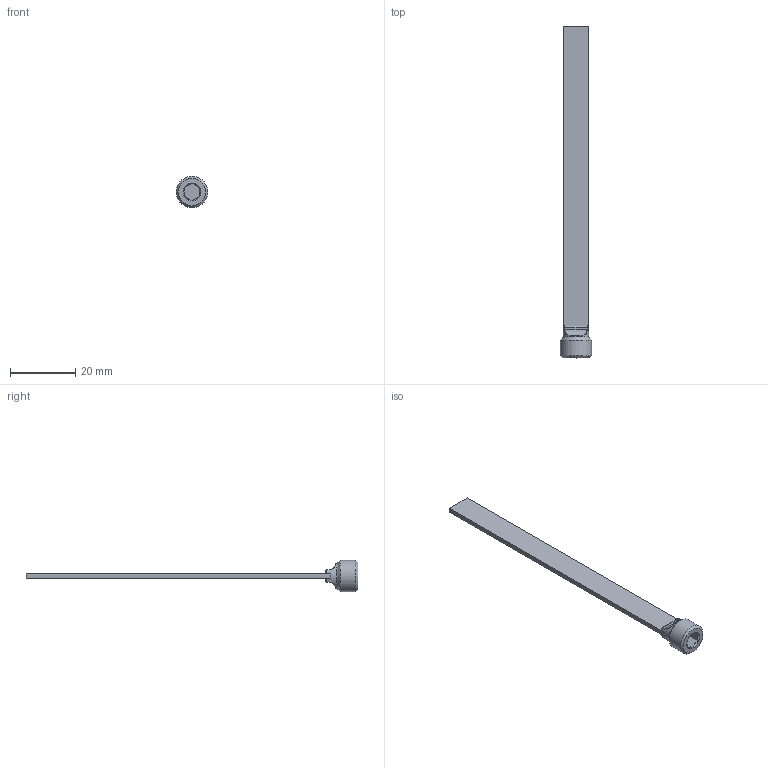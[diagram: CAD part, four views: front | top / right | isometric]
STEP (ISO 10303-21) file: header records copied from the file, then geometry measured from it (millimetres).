
FILE_DESCRIPTION(/* description */ (''),/* implementation_level */ '2;1');
FILE_NAME(/* name */ 'C:/Users/drich/Desktop/SB18X4BSP v1.step',/* time_stamp */ '2020-01-04T16:02:10-06:00',/* author */ (''),/* organization */ (''),/* preprocessor_version */ 'ST-DEVELOPER v18',/* originating_system */ 'Autodesk Translation Framework v8.12.0.6',/* authorisation */ '');
FILE_SCHEMA (('AUTOMOTIVE_DESIGN { 1 0 10303 214 3 1 1 }'));
Length unit declared in the file: inch
Products named in the file (1): SB18X4BSP
Bounding box: 9.62 x 101.6 x 9.62 mm (x, y, z)
Volume: 1499.3 mm3; surface area: 2147.5 mm2
Topology: 1 solids, 1 shells, 35 faces, 100 edges, 68 vertices
Faces by surface type: plane 19, cylinder 8, torus 5, cone 3
Full cylindrical faces by diameter (mm): 7.772 x1, 9.621 x1
Entity records: 1287 total; most frequent: CARTESIAN_POINT 364, ORIENTED_EDGE 200, DIRECTION 171, EDGE_CURVE 100, VERTEX_POINT 68, AXIS2_PLACEMENT_3D 63, LINE 45, VECTOR 45
